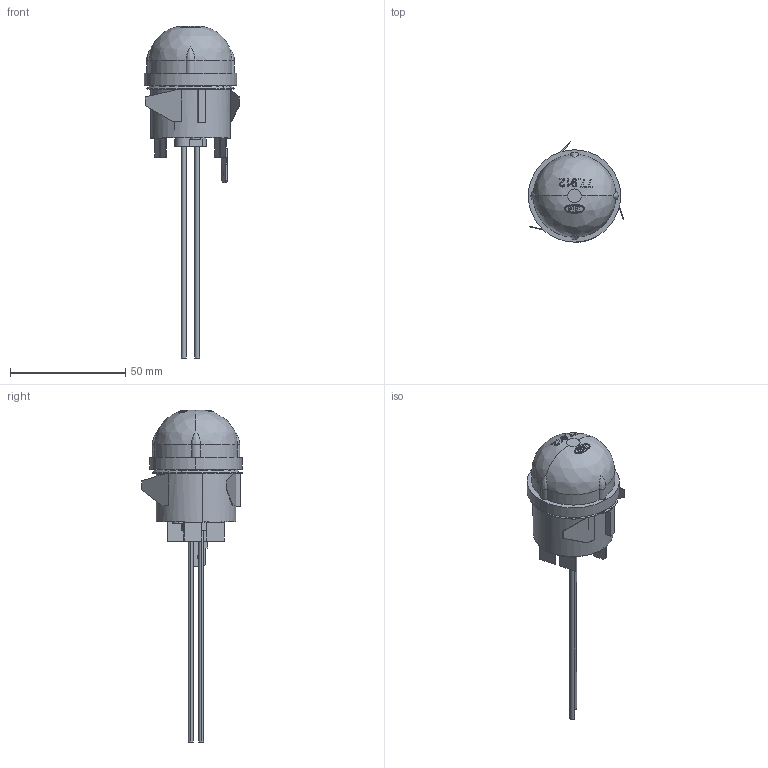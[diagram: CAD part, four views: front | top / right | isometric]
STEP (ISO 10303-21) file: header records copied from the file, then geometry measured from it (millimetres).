
FILE_DESCRIPTION((' '),'1');
FILE_NAME('00IYZ07Y03.stp','2013-03-08 T11:47:59',(''),(''),'STEP Interface 2012.185 by CT CoreTechnologie','3D_Evolution2012.185 by CT CoreTechnologie','');
FILE_SCHEMA(('AP203_CONFIGURATION_CONTROLLED_3D_DESIGN_OF_MECHANICAL_PARTS_AND_ASSEMBLIES_MIM_LF'));
Length unit declared in the file: millimetre
Products named in the file (5): 00IYZ07Y03; 00IYZ07Y03-1; 00IYZ07Y03-2; 00IYZ07Y03-3; 00IYZ07Y03-4
Assembly tree (4 placements, depth 2):
  00IYZ07Y03
    00IYZ07Y03-1
    00IYZ07Y03-2
    00IYZ07Y03-3
    00IYZ07Y03-4
Bounding box: 41.41 x 43.8 x 144.19 mm (x, y, z)
Volume: 22755.2 mm3; surface area: 19447.8 mm2
Topology: 4 solids, 4 shells, 355 faces, 889 edges, 572 vertices
Faces by surface type: plane 196, cylinder 98, bspline 61
Entity records: 14666 total; most frequent: CARTESIAN_POINT 2900, DIRECTION 1785, ORIENTED_EDGE 1762, EDGE_CURVE 881, AXIS2_PLACEMENT_3D 631, VERTEX_POINT 572, VECTOR 523, LINE 523
